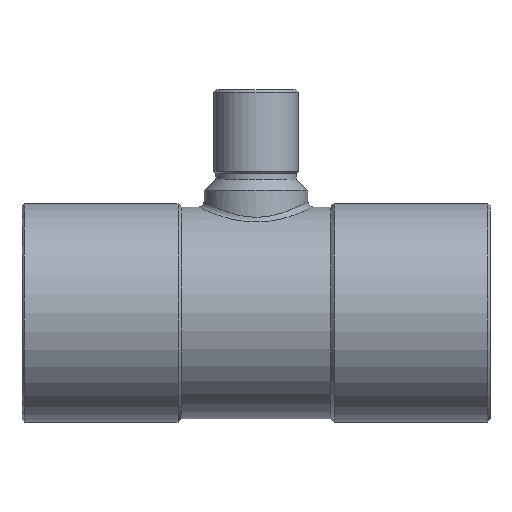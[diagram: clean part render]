
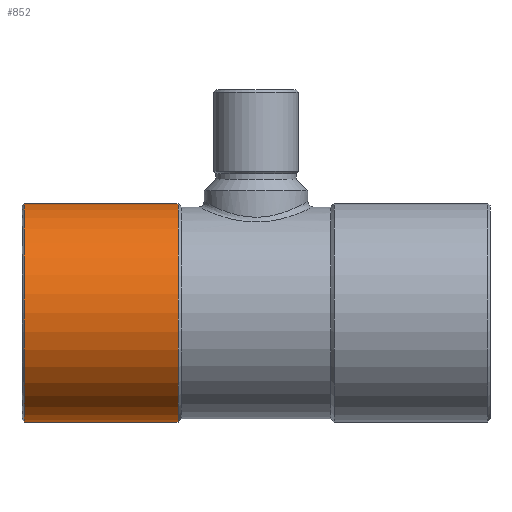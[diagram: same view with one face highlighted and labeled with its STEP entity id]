
A CAD part, top view. The second image highlights one B-rep face of the part: STEP entity #852.
In plain terms, the highlighted cylindrical face has radius 9.8 mm (diameter 19.6 mm), a partial arc.
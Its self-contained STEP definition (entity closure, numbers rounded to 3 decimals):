
#262=CARTESIAN_POINT('',(-7.0,9.8,0.0));
#263=VERTEX_POINT('',#262);
#270=CARTESIAN_POINT('',(-7.0,-9.8,0.));
#271=VERTEX_POINT('',#270);
#272=CARTESIAN_POINT('',(-7.0,0.0,0.0));
#273=DIRECTION('',(1.0,0.0,0.0));
#274=DIRECTION('',(0.0,1.0,0.0));
#275=AXIS2_PLACEMENT_3D('',#272,#273,#274);
#276=CIRCLE('',#275,9.8);
#277=EDGE_CURVE('',#263,#271,#276,.T.);
#821=CARTESIAN_POINT('',(-14.0,0.0,0.0));
#822=DIRECTION('',(1.0,0.0,0.0));
#823=DIRECTION('',(0.0,1.0,0.0));
#824=AXIS2_PLACEMENT_3D('',#821,#822,#823);
#825=CYLINDRICAL_SURFACE('',#824,9.8);
#826=CARTESIAN_POINT('',(-20.8,9.8,0.));
#827=VERTEX_POINT('',#826);
#828=CARTESIAN_POINT('',(-20.8,9.8,0.));
#829=DIRECTION('',(1.0,0.0,0.0));
#830=VECTOR('',#829,13.8);
#831=LINE('',#828,#830);
#832=EDGE_CURVE('',#827,#263,#831,.T.);
#833=ORIENTED_EDGE('',*,*,#832,.F.);
#834=CARTESIAN_POINT('',(-20.8,-9.8,0.));
#835=VERTEX_POINT('',#834);
#836=CARTESIAN_POINT('',(-20.8,0.0,0.0));
#837=DIRECTION('',(-1.0,0.0,0.0));
#838=DIRECTION('',(0.0,-1.0,0.0));
#839=AXIS2_PLACEMENT_3D('',#836,#837,#838);
#840=CIRCLE('',#839,9.8);
#841=EDGE_CURVE('',#835,#827,#840,.T.);
#842=ORIENTED_EDGE('',*,*,#841,.F.);
#843=CARTESIAN_POINT('',(-7.0,-9.8,0.));
#844=DIRECTION('',(-1.0,0.0,0.0));
#845=VECTOR('',#844,13.8);
#846=LINE('',#843,#845);
#847=EDGE_CURVE('',#271,#835,#846,.T.);
#848=ORIENTED_EDGE('',*,*,#847,.F.);
#849=ORIENTED_EDGE('',*,*,#277,.F.);
#850=EDGE_LOOP('',(#833,#842,#848,#849));
#851=FACE_OUTER_BOUND('',#850,.T.);
#852=ADVANCED_FACE('',(#851),#825,.T.);
